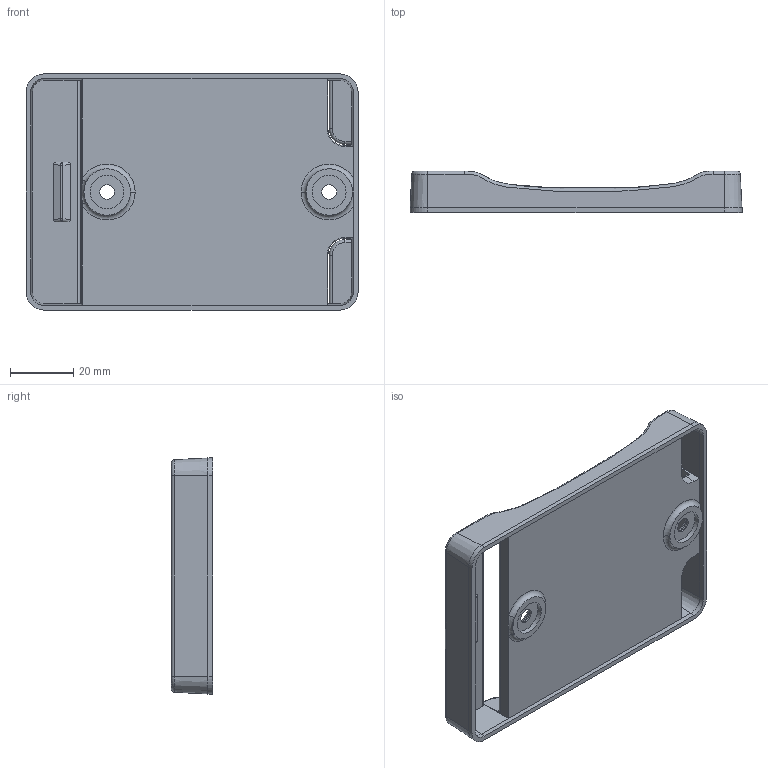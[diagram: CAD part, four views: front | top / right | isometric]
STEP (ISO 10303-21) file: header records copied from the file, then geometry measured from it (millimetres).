
FILE_DESCRIPTION (( 'STEP AP214' ), '1' );
FILE_NAME ('Stand_Quick_Mount.STEP', '2019-05-15T01:56:22', ( '' ), ( '' ), 'SwSTEP 2.0', 'SolidWorks 2017', '' );
FILE_SCHEMA (( 'AUTOMOTIVE_DESIGN' ));
Length unit declared in the file: millimetre
Products named in the file (1): Stand_Quick_Mount
Bounding box: 104.65 x 13 x 74.41 mm (x, y, z)
Volume: 33393.4 mm3; surface area: 22525.4 mm2
Topology: 1 solids, 1 shells, 162 faces, 402 edges, 240 vertices
Faces by surface type: plane 54, cylinder 51, torus 24, cone 20, bspline 11, sphere 2
Entity records: 6126 total; most frequent: CARTESIAN_POINT 2354, ORIENTED_EDGE 796, DIRECTION 783, EDGE_CURVE 398, AXIS2_PLACEMENT_3D 291, VERTEX_POINT 238, VECTOR 201, LINE 201
